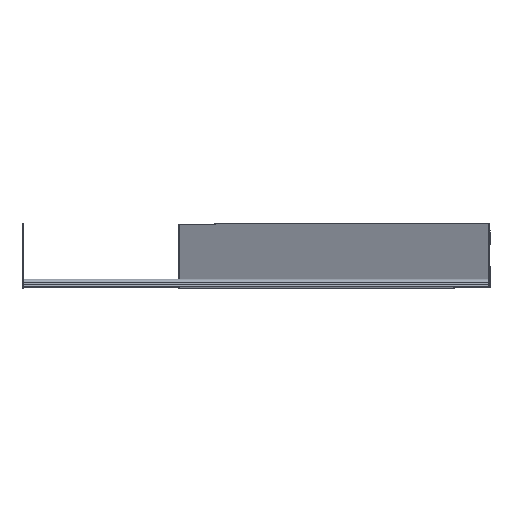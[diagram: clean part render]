
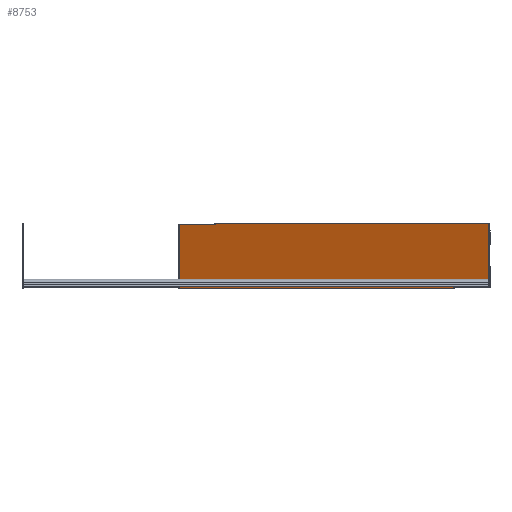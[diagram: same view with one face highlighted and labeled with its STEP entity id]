
A CAD part, top view. The second image highlights one B-rep face of the part: STEP entity #8753.
In plain terms, the highlighted planar face has unit normal (-0.423, 0, 0.906).
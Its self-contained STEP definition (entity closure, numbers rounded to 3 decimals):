
#80 = ORIENTED_EDGE ( 'NONE', *, *, #4463, .T. ) ;
#434 = CARTESIAN_POINT ( 'NONE',  ( 749.134, 0., -0.404 ) ) ;
#859 = DIRECTION ( 'NONE',  ( 0., 1., 0. ) ) ;
#1182 = EDGE_CURVE ( 'NONE', #2119, #11309, #5458, .T. ) ;
#1254 = VERTEX_POINT ( 'NONE', #9468 ) ;
#2119 = VERTEX_POINT ( 'NONE', #5655 ) ;
#2567 = ORIENTED_EDGE ( 'NONE', *, *, #5753, .F. ) ;
#2854 = CARTESIAN_POINT ( 'NONE',  ( 152.02, 124., -279.057 ) ) ;
#3052 = AXIS2_PLACEMENT_3D ( 'NONE', #4692, #5572, #6452 ) ;
#3402 = DIRECTION ( 'NONE',  ( -0.906, 0., -0.423 ) ) ;
#3832 = DIRECTION ( 'NONE',  ( -0.906, 0., -0.423 ) ) ;
#3848 = ORIENTED_EDGE ( 'NONE', *, *, #8670, .T. ) ;
#4042 = VECTOR ( 'NONE', #3402, 1000. ) ;
#4271 = LINE ( 'NONE', #10080, #4042 ) ;
#4338 = CARTESIAN_POINT ( 'NONE',  ( 152.02, 0., -279.057 ) ) ;
#4463 = EDGE_CURVE ( 'NONE', #8200, #1254, #11303, .T. ) ;
#4692 = CARTESIAN_POINT ( 'NONE',  ( 750., 124., 0. ) ) ;
#4707 = CARTESIAN_POINT ( 'NONE',  ( 750., 0., 0. ) ) ;
#5458 = LINE ( 'NONE', #4338, #10884 ) ;
#5572 = DIRECTION ( 'NONE',  ( -0.423, 0., 0.906 ) ) ;
#5603 = CARTESIAN_POINT ( 'NONE',  ( 749.134, 0., -0.404 ) ) ;
#5655 = CARTESIAN_POINT ( 'NONE',  ( 152.02, 0., -279.057 ) ) ;
#5753 = EDGE_CURVE ( 'NONE', #8200, #2119, #10596, .T. ) ;
#6334 = VECTOR ( 'NONE', #3832, 1000. ) ;
#6336 = VECTOR ( 'NONE', #859, 1000. ) ;
#6452 = DIRECTION ( 'NONE',  ( 0.906, 0., 0.423 ) ) ;
#8200 = VERTEX_POINT ( 'NONE', #434 ) ;
#8341 = PLANE ( 'NONE',  #3052 ) ;
#8670 = EDGE_CURVE ( 'NONE', #1254, #11309, #4271, .T. ) ;
#8753 = ADVANCED_FACE ( 'NONE', ( #11332 ), #8341, .T. ) ;
#9163 = DIRECTION ( 'NONE',  ( 0., 1., 0. ) ) ;
#9468 = CARTESIAN_POINT ( 'NONE',  ( 749.134, 124., -0.404 ) ) ;
#10080 = CARTESIAN_POINT ( 'NONE',  ( 750., 124., 0. ) ) ;
#10596 = LINE ( 'NONE', #4707, #6334 ) ;
#10884 = VECTOR ( 'NONE', #9163, 1000. ) ;
#11115 = ORIENTED_EDGE ( 'NONE', *, *, #1182, .F. ) ;
#11303 = LINE ( 'NONE', #5603, #6336 ) ;
#11309 = VERTEX_POINT ( 'NONE', #2854 ) ;
#11332 = FACE_OUTER_BOUND ( 'NONE', #11385, .T. ) ;
#11385 = EDGE_LOOP ( 'NONE', ( #11115, #2567, #80, #3848 ) ) ;
